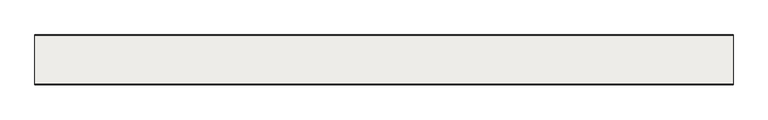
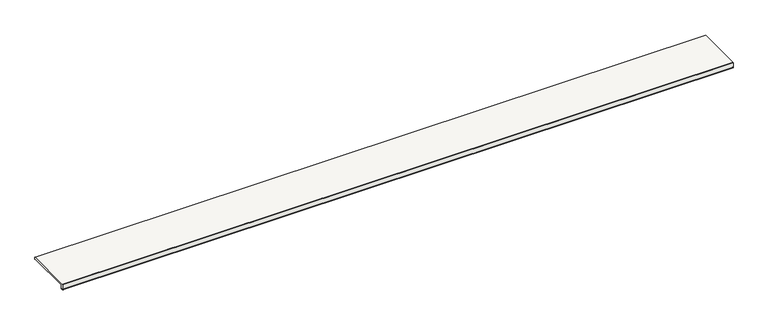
"""IFC4 building model written with IfcOpenShell, lengths in millimetres: slab geometry, ROSA GRES_L62 : Pieza L62_Tao_Beige_Anti-Slip."""

from ifc_helpers import new_model, si_unit, point, frame, frame_2d, origin, place, context, project, spatial, polyline, circle_curve, trimmed, segment, composite_curve, outline, extrude, source, transform, mapped, element, save


def slab_2a0611e9(model_context):
    return source(origin(), model_context, "Body", "SweptSolid", [
        extrude(outline(composite_curve([segment(polyline([(12.1001991, -37.0), (9.4054777, -37.0)]), True, "CONTINUOUS"), segment(trimmed(circle_curve(frame_2d((7.4142134, -37.0)), 1.9912643), [point((9.4054777, -37.0))], [point((5.422949, -37.0))], True, "CARTESIAN"), True, "CONTINUOUS"), segment(polyline([(5.422949, -37.0), (2.5, -37.0)]), True, "CONTINUOUS"), segment(trimmed(circle_curve(frame_2d((2.5, -34.5)), 2.5), [point((2.5, -37.0))], [point((0.0, -34.5))], False, "CARTESIAN"), True, "CONTINUOUS"), segment(polyline([(0.0, -34.5), (0.0, -2.5), (2.5, 0.0), (315.5, 0.0), (317.0, -2.5), (317.0, -12.4648352)]), True, "CONTINUOUS"), segment(trimmed(circle_curve(frame_2d((315.5234432, -12.4648352)), 1.4765568), [point((317.0, -12.4648352))], [point((315.5234432, -13.9413919))], False, "CARTESIAN"), True, "CONTINUOUS"), segment(polyline([(315.5234432, -13.9413919), (16.6422322, -13.9413919)]), True, "CONTINUOUS"), segment(trimmed(circle_curve(frame_2d((16.6422322, -16.5836242)), 2.6422322), [point((16.6422322, -13.9413919))], [point((14.0, -16.5836242))], True, "CARTESIAN"), True, "CONTINUOUS"), segment(polyline([(14.0, -16.5836242), (14.0, -35.1001991)]), True, "CONTINUOUS"), segment(trimmed(circle_curve(frame_2d((12.1001991, -35.1001991)), 1.8998009), [point((14.0, -35.1001991))], [point((12.1001991, -37.0))], False, "CARTESIAN"), True, "CONTINUOUS")], self_intersect=False)), frame((0.0, 0.0, 0.0), z_axis=(1.0, 0.0, 0.0), x_axis=(0.0, 1.0, 0.0)), (0.0, 0.0, 1.0), 4435.0),
    ])


if __name__ == "__main__":
    model = new_model("IFC4")
    model_context = context("Model", 3, world=origin())
    ifc_project = project(units=[si_unit("LENGTHUNIT", "METRE", prefix="MILLI")], contexts=[model_context])
    site = spatial("IfcSite", under=ifc_project)
    building = spatial("IfcBuilding", under=site)
    placement = place(None, origin())
    slab_shape = slab_2a0611e9(model_context)
    element("IfcSlab", 1, ObjectType="ROSA GRES_L62 : Pieza L62_Tao_Beige_Anti-Slip", at=placement, inside=building, context=model_context, shape_type="MappedRepresentation", body=[
        mapped(slab_shape, transform((0.0, 0.0, 0.0), x_axis=(1.0, 0.0, 0.0), y_axis=(0.0, 1.0, 0.0), z_axis=(0.0, 0.0, 1.0))),
    ])
    save(model, "model.ifc")
